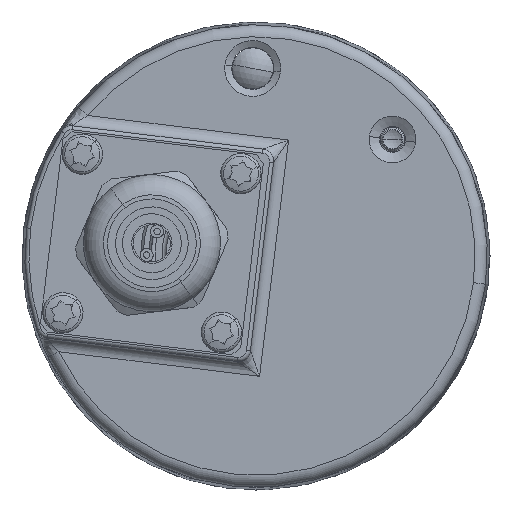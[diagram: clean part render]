
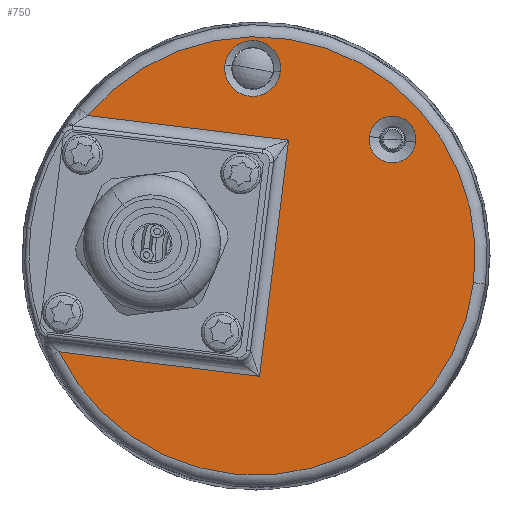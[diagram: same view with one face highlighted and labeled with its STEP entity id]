
A CAD part, left-side view. The second image highlights one B-rep face of the part: STEP entity #750.
In plain terms, the highlighted planar face has unit normal (-1, 0, 0).
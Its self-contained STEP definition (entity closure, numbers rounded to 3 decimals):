
#88 = ORIENTED_EDGE ( 'NONE', *, *, #648, .T. ) ;
#245 = EDGE_CURVE ( 'NONE', #281, #282, #3757, .T. ) ;
#263 = ORIENTED_EDGE ( 'NONE', *, *, #558, .T. ) ;
#281 = VERTEX_POINT ( 'NONE', #3709 ) ;
#282 = VERTEX_POINT ( 'NONE', #3708 ) ;
#286 = VERTEX_POINT ( 'NONE', #3797 ) ;
#287 = VERTEX_POINT ( 'NONE', #3796 ) ;
#291 = VERTEX_POINT ( 'NONE', #3789 ) ;
#301 = EDGE_CURVE ( 'NONE', #291, #286, #3818, .T. ) ;
#313 = VERTEX_POINT ( 'NONE', #3926 ) ;
#318 = EDGE_CURVE ( 'NONE', #313, #287, #4084, .T. ) ;
#456 = EDGE_CURVE ( 'NONE', #286, #291, #4437, .T. ) ;
#558 = EDGE_CURVE ( 'NONE', #282, #559, #5041, .T. ) ;
#559 = VERTEX_POINT ( 'NONE', #5037 ) ;
#563 = ORIENTED_EDGE ( 'NONE', *, *, #245, .T. ) ;
#564 = VERTEX_POINT ( 'NONE', #5026 ) ;
#565 = EDGE_CURVE ( 'NONE', #567, #281, #4933, .T. ) ;
#566 = ORIENTED_EDGE ( 'NONE', *, *, #565, .T. ) ;
#567 = VERTEX_POINT ( 'NONE', #4928 ) ;
#568 = EDGE_CURVE ( 'NONE', #564, #567, #4927, .T. ) ;
#569 = EDGE_CURVE ( 'NONE', #287, #313, #4906, .T. ) ;
#570 = EDGE_LOOP ( 'NONE', ( #763, #600 ) ) ;
#598 = EDGE_LOOP ( 'NONE', ( #603, #566, #563, #263, #88 ) ) ;
#599 = EDGE_LOOP ( 'NONE', ( #762, #761 ) ) ;
#600 = ORIENTED_EDGE ( 'NONE', *, *, #456, .T. ) ;
#603 = ORIENTED_EDGE ( 'NONE', *, *, #568, .T. ) ;
#648 = EDGE_CURVE ( 'NONE', #559, #564, #5370, .T. ) ;
#750 = ADVANCED_FACE ( 'NONE', ( #6587, #6592, #6591 ), #6167, .F. ) ;
#761 = ORIENTED_EDGE ( 'NONE', *, *, #569, .T. ) ;
#762 = ORIENTED_EDGE ( 'NONE', *, *, #318, .T. ) ;
#763 = ORIENTED_EDGE ( 'NONE', *, *, #301, .T. ) ;
#3708 = CARTESIAN_POINT ( 'NONE',  ( -19., 20.853, 17.421 ) ) ;
#3709 = CARTESIAN_POINT ( 'NONE',  ( -19., -26.97, -3.312 ) ) ;
#3753 = DIRECTION ( 'NONE',  ( 0., -0.993, -0.122 ) ) ;
#3754 = DIRECTION ( 'NONE',  ( -1., 0., 0. ) ) ;
#3755 = CARTESIAN_POINT ( 'NONE',  ( -19., 0., 0. ) ) ;
#3756 = AXIS2_PLACEMENT_3D ( 'NONE', #3755, #3754, #3753 ) ;
#3757 = CIRCLE ( 'NONE', #3756, 27.173 ) ;
#3789 = CARTESIAN_POINT ( 'NONE',  ( -19., -14.042, 14.804 ) ) ;
#3796 = CARTESIAN_POINT ( 'NONE',  ( -19., -3.034, 22.824 ) ) ;
#3797 = CARTESIAN_POINT ( 'NONE',  ( -19., -19.796, 14.097 ) ) ;
#3814 = DIRECTION ( 'NONE',  ( 0., -0.993, -0.122 ) ) ;
#3815 = DIRECTION ( 'NONE',  ( 1., 0., 0. ) ) ;
#3816 = CARTESIAN_POINT ( 'NONE',  ( -19., -16.919, 14.45 ) ) ;
#3817 = AXIS2_PLACEMENT_3D ( 'NONE', #3816, #3815, #3814 ) ;
#3818 = CIRCLE ( 'NONE', #3817, 2.899 ) ;
#3926 = CARTESIAN_POINT ( 'NONE',  ( -19., 3.846, 23.669 ) ) ;
#4080 = DIRECTION ( 'NONE',  ( 0., -0.993, -0.122 ) ) ;
#4081 = DIRECTION ( 'NONE',  ( 1., 0., 0. ) ) ;
#4082 = CARTESIAN_POINT ( 'NONE',  ( -19., 0.406, 23.246 ) ) ;
#4083 = AXIS2_PLACEMENT_3D ( 'NONE', #4082, #4081, #4080 ) ;
#4084 = CIRCLE ( 'NONE', #4083, 3.466 ) ;
#4351 = DIRECTION ( 'NONE',  ( 0., -0.993, -0.122 ) ) ;
#4352 = DIRECTION ( 'NONE',  ( 1., 0., 0. ) ) ;
#4353 = CARTESIAN_POINT ( 'NONE',  ( -19., -16.919, 14.45 ) ) ;
#4354 = AXIS2_PLACEMENT_3D ( 'NONE', #4353, #4352, #4351 ) ;
#4437 = CIRCLE ( 'NONE', #4354, 2.899 ) ;
#4902 = DIRECTION ( 'NONE',  ( 0., -0.993, -0.122 ) ) ;
#4903 = DIRECTION ( 'NONE',  ( 1., 0., 0. ) ) ;
#4904 = CARTESIAN_POINT ( 'NONE',  ( -19., 0.406, 23.246 ) ) ;
#4905 = AXIS2_PLACEMENT_3D ( 'NONE', #4904, #4903, #4902 ) ;
#4906 = CIRCLE ( 'NONE', #4905, 3.466 ) ;
#4924 = DIRECTION ( 'NONE',  ( 0., 0.993, 0.122 ) ) ;
#4925 = VECTOR ( 'NONE', #4924, 1000. ) ;
#4926 = CARTESIAN_POINT ( 'NONE',  ( -19., 27.014, -11.544 ) ) ;
#4927 = LINE ( 'NONE', #4926, #4925 ) ;
#4928 = CARTESIAN_POINT ( 'NONE',  ( -19., 24.448, -11.859 ) ) ;
#4929 = DIRECTION ( 'NONE',  ( 0., -0.993, -0.122 ) ) ;
#4930 = DIRECTION ( 'NONE',  ( -1., 0., 0. ) ) ;
#4931 = CARTESIAN_POINT ( 'NONE',  ( -19., 0., 0. ) ) ;
#4932 = AXIS2_PLACEMENT_3D ( 'NONE', #4931, #4930, #4929 ) ;
#4933 = CIRCLE ( 'NONE', #4932, 27.173 ) ;
#5026 = CARTESIAN_POINT ( 'NONE',  ( -19., -0.436, -14.914 ) ) ;
#5037 = CARTESIAN_POINT ( 'NONE',  ( -19., -4.031, 14.366 ) ) ;
#5038 = DIRECTION ( 'NONE',  ( 0., -0.993, -0.122 ) ) ;
#5039 = VECTOR ( 'NONE', #5038, 1000. ) ;
#5040 = CARTESIAN_POINT ( 'NONE',  ( -19., -2.542, 14.549 ) ) ;
#5041 = LINE ( 'NONE', #5040, #5039 ) ;
#5370 = LINE ( 'NONE', #5455, #5454 ) ;
#5453 = DIRECTION ( 'NONE',  ( 0., 0.122, -0.993 ) ) ;
#5454 = VECTOR ( 'NONE', #5453, 1000. ) ;
#5455 = CARTESIAN_POINT ( 'NONE',  ( -19., -0.618, -13.425 ) ) ;
#6078 = DIRECTION ( 'NONE',  ( 0., -0.993, -0.122 ) ) ;
#6085 = AXIS2_PLACEMENT_3D ( 'NONE', #6106, #6105, #6078 ) ;
#6105 = DIRECTION ( 'NONE',  ( 1., 0., 0. ) ) ;
#6106 = CARTESIAN_POINT ( 'NONE',  ( -19., 0., 0. ) ) ;
#6167 = PLANE ( 'NONE',  #6085 ) ;
#6587 = FACE_BOUND ( 'NONE', #599, .T. ) ;
#6591 = FACE_OUTER_BOUND ( 'NONE', #598, .T. ) ;
#6592 = FACE_BOUND ( 'NONE', #570, .T. ) ;
